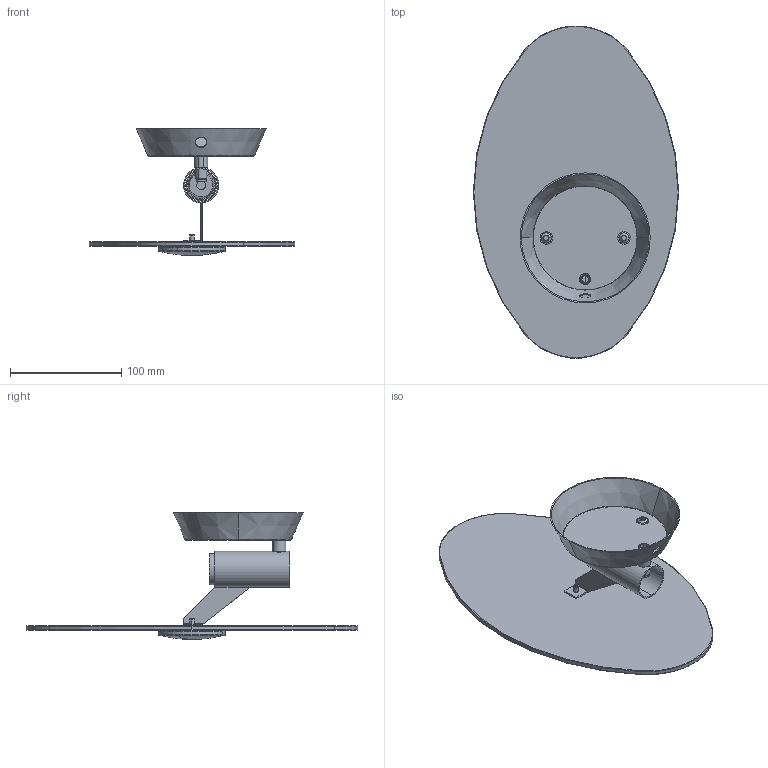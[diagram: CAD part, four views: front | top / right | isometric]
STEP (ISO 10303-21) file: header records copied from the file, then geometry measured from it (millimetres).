
FILE_DESCRIPTION (( 'STEP AP214' ), '1' );
FILE_NAME ('043_2_W_PL_3D.STEP', '2021-05-20T12:56:28', ( '' ), ( '' ), 'SwSTEP 2.0', 'SolidWorks 2021', '' );
FILE_SCHEMA (( 'AUTOMOTIVE_DESIGN' ));
Length unit declared in the file: millimetre
Products named in the file (1): 043_2_W_PL_3D
Bounding box: 184.69 x 298.62 x 114.2 mm (x, y, z)
Volume: 230675.3 mm3; surface area: 156651.4 mm2
Topology: 11 solids, 11 shells, 242 faces, 553 edges, 342 vertices
Faces by surface type: plane 122, cylinder 62, torus 28, cone 28, sphere 2
Entity records: 9947 total; most frequent: CARTESIAN_POINT 1557, DIRECTION 1251, ORIENTED_EDGE 1102, EDGE_CURVE 551, AXIS2_PLACEMENT_3D 510, VERTEX_POINT 342, EDGE_LOOP 277, CIRCLE 267
